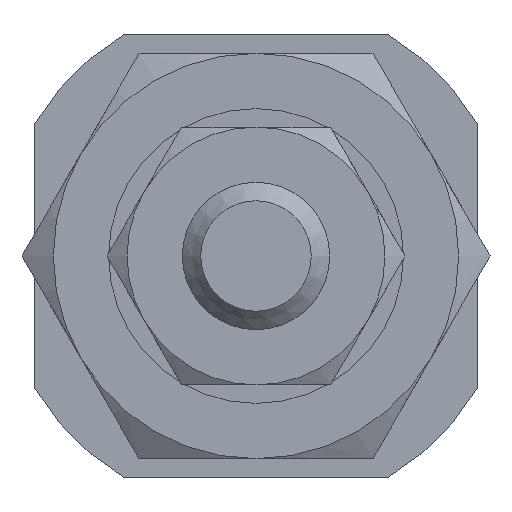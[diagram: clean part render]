
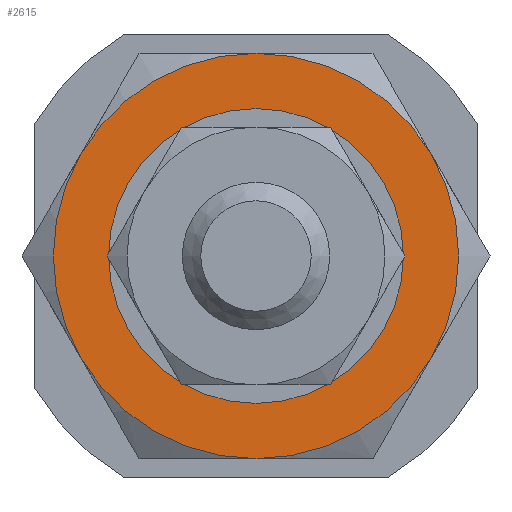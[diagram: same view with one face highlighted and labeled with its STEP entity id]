
A CAD part, left-side view. The second image highlights one B-rep face of the part: STEP entity #2615.
In plain terms, the highlighted planar face has unit normal (-1, 0, 0).
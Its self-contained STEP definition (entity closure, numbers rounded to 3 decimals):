
#844=CARTESIAN_POINT('',(-155.899,4.763,-2.75));
#845=VERTEX_POINT('',#844);
#861=CARTESIAN_POINT('',(-155.899,4.763,2.75));
#862=VERTEX_POINT('',#861);
#863=CARTESIAN_POINT('',(-155.899,0.,0.0));
#864=DIRECTION('',(-1.0,0.0,0.0));
#865=DIRECTION('',(0.0,-1.0,0.0));
#866=AXIS2_PLACEMENT_3D('',#863,#864,#865);
#867=CIRCLE('',#866,5.5);
#868=EDGE_CURVE('',#862,#845,#867,.T.);
#893=CARTESIAN_POINT('',(-155.899,0.,5.5));
#894=VERTEX_POINT('',#893);
#921=CARTESIAN_POINT('',(-155.899,0.,0.0));
#922=DIRECTION('',(-1.0,0.0,0.0));
#923=DIRECTION('',(0.0,-1.0,0.0));
#924=AXIS2_PLACEMENT_3D('',#921,#922,#923);
#925=CIRCLE('',#924,5.5);
#926=EDGE_CURVE('',#894,#862,#925,.T.);
#936=CARTESIAN_POINT('',(-155.899,0.,-5.5));
#937=VERTEX_POINT('',#936);
#953=CARTESIAN_POINT('',(-155.899,0.,0.0));
#954=DIRECTION('',(-1.0,0.0,0.0));
#955=DIRECTION('',(0.0,-1.0,0.0));
#956=AXIS2_PLACEMENT_3D('',#953,#954,#955);
#957=CIRCLE('',#956,5.5);
#958=EDGE_CURVE('',#845,#937,#957,.T.);
#983=CARTESIAN_POINT('',(-155.899,-4.763,2.75));
#984=VERTEX_POINT('',#983);
#1011=CARTESIAN_POINT('',(-155.899,0.,0.0));
#1012=DIRECTION('',(-1.0,0.0,0.0));
#1013=DIRECTION('',(0.0,-1.0,0.0));
#1014=AXIS2_PLACEMENT_3D('',#1011,#1012,#1013);
#1015=CIRCLE('',#1014,5.5);
#1016=EDGE_CURVE('',#984,#894,#1015,.T.);
#1026=CARTESIAN_POINT('',(-155.899,-4.763,-2.75));
#1027=VERTEX_POINT('',#1026);
#1043=CARTESIAN_POINT('',(-155.899,0.,0.0));
#1044=DIRECTION('',(-1.0,0.0,0.0));
#1045=DIRECTION('',(0.0,-1.0,0.0));
#1046=AXIS2_PLACEMENT_3D('',#1043,#1044,#1045);
#1047=CIRCLE('',#1046,5.5);
#1048=EDGE_CURVE('',#937,#1027,#1047,.T.);
#1086=CARTESIAN_POINT('',(-155.899,0.,0.0));
#1087=DIRECTION('',(-1.0,0.0,0.0));
#1088=DIRECTION('',(0.0,-1.0,0.0));
#1089=AXIS2_PLACEMENT_3D('',#1086,#1087,#1088);
#1090=CIRCLE('',#1089,5.5);
#1091=EDGE_CURVE('',#1027,#984,#1090,.T.);
#2591=CARTESIAN_POINT('',(-155.899,5.75,0.0));
#2592=DIRECTION('',(-1.0,0.0,0.0));
#2593=DIRECTION('',(0.0,0.0,1.0));
#2594=AXIS2_PLACEMENT_3D('',#2591,#2592,#2593);
#2595=PLANE('',#2594);
#2596=ORIENTED_EDGE('',*,*,#868,.T.);
#2597=ORIENTED_EDGE('',*,*,#958,.T.);
#2598=ORIENTED_EDGE('',*,*,#1048,.T.);
#2599=ORIENTED_EDGE('',*,*,#1091,.T.);
#2600=ORIENTED_EDGE('',*,*,#1016,.T.);
#2601=ORIENTED_EDGE('',*,*,#926,.T.);
#2602=EDGE_LOOP('',(#2596,#2597,#2598,#2599,#2600,#2601));
#2603=FACE_OUTER_BOUND('',#2602,.T.);
#2604=CARTESIAN_POINT('',(-155.899,4.,0.0));
#2605=VERTEX_POINT('',#2604);
#2606=CARTESIAN_POINT('',(-155.899,0.,0.0));
#2607=DIRECTION('',(-1.0,0.0,0.0));
#2608=DIRECTION('',(0.0,1.0,0.0));
#2609=AXIS2_PLACEMENT_3D('',#2606,#2607,#2608);
#2610=CIRCLE('',#2609,4.);
#2611=EDGE_CURVE('',#2605,#2605,#2610,.T.);
#2612=ORIENTED_EDGE('',*,*,#2611,.F.);
#2613=EDGE_LOOP('',(#2612));
#2614=FACE_BOUND('',#2613,.T.);
#2615=ADVANCED_FACE('',(#2603,#2614),#2595,.T.);
